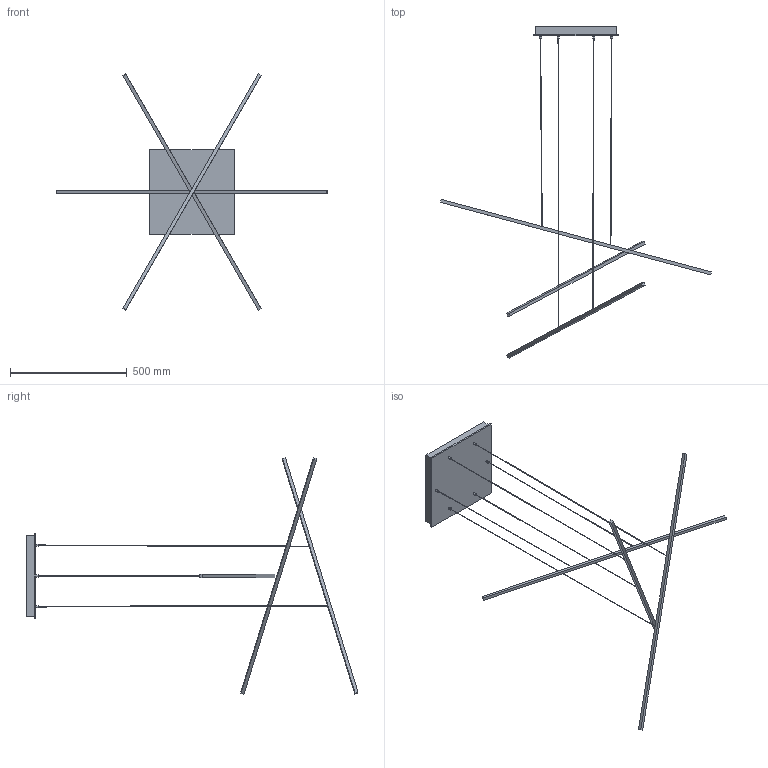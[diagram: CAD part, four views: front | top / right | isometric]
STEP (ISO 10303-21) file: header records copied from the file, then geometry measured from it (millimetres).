
FILE_DESCRIPTION (( 'STEP AP214' ), '1' );
FILE_NAME ('MP18203.STEP', '2019-08-06T19:43:28', ( '' ), ( '' ), 'SwSTEP 2.0', 'SolidWorks 2018', '' );
FILE_SCHEMA (( 'AUTOMOTIVE_DESIGN' ));
Length unit declared in the file: inch
Products named in the file (4): MP18203_Wires^MP18203; LAMPHEAD; CANOPY_For MP18203; MP18203
Assembly tree (5 placements, depth 2):
  MP18203
    CANOPY_For MP18203
    LAMPHEAD  x3
    MP18203_Wires^MP18203
Bounding box: 1162.62 x 1422.06 x 1013.36 mm (x, y, z)
Volume: 5724634.7 mm3; surface area: 548860.9 mm2
Topology: 10 solids, 10 shells, 71 faces, 132 edges, 88 vertices
Faces by surface type: plane 47, cylinder 24
Entity records: 1793 total; most frequent: DIRECTION 290, CARTESIAN_POINT 247, ORIENTED_EDGE 216, AXIS2_PLACEMENT_3D 115, EDGE_CURVE 108, VERTEX_POINT 72, EDGE_LOOP 66, LINE 60
